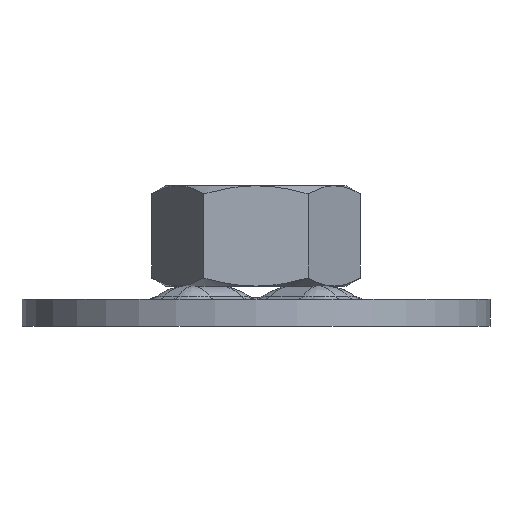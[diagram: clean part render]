
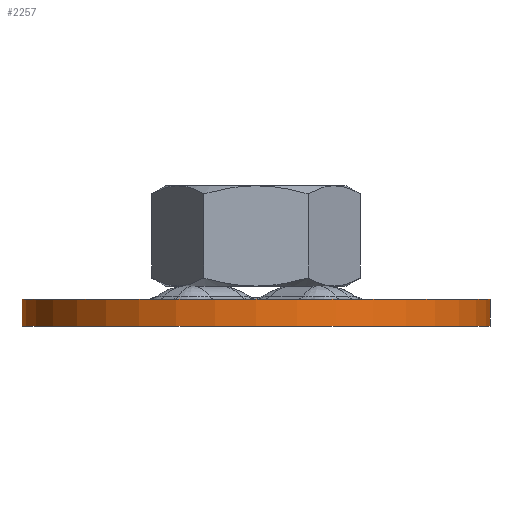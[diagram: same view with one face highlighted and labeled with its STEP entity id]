
A CAD part, front view. The second image highlights one B-rep face of the part: STEP entity #2257.
In plain terms, the highlighted cylindrical face has radius 35 mm (diameter 70 mm), a full revolution.
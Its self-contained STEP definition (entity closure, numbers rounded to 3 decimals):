
#211=CYLINDRICAL_SURFACE('',#2507,35.);
#298=LINE('',#7106,#377);
#377=VECTOR('',#3023,35.);
#537=FACE_OUTER_BOUND('',#680,.T.);
#680=EDGE_LOOP('',(#1925,#1926,#1927,#1928));
#798=CIRCLE('',#2474,35.);
#815=CIRCLE('',#2497,35.);
#986=VERTEX_POINT('',#7042);
#1000=VERTEX_POINT('',#7082);
#1293=EDGE_CURVE('',#986,#986,#798,.T.);
#1313=EDGE_CURVE('',#1000,#1000,#815,.T.);
#1325=EDGE_CURVE('',#1000,#986,#298,.T.);
#1925=ORIENTED_EDGE('',*,*,#1313,.F.);
#1926=ORIENTED_EDGE('',*,*,#1325,.T.);
#1927=ORIENTED_EDGE('',*,*,#1293,.T.);
#1928=ORIENTED_EDGE('',*,*,#1325,.F.);
#2257=ADVANCED_FACE('',(#537),#211,.T.);
#2474=AXIS2_PLACEMENT_3D('',#7043,#2949,#2950);
#2497=AXIS2_PLACEMENT_3D('',#7083,#2998,#2999);
#2507=AXIS2_PLACEMENT_3D('',#7105,#3021,#3022);
#2949=DIRECTION('center_axis',(0.,0.,1.));
#2950=DIRECTION('ref_axis',(-1.,0.,0.));
#2998=DIRECTION('center_axis',(0.,0.,1.));
#2999=DIRECTION('ref_axis',(-1.,0.,0.));
#3021=DIRECTION('center_axis',(0.,0.,1.));
#3022=DIRECTION('ref_axis',(1.,0.,0.));
#3023=DIRECTION('',(0.,0.,-1.));
#7042=CARTESIAN_POINT('',(-35.,0.,0.));
#7043=CARTESIAN_POINT('Origin',(0.,0.,0.));
#7082=CARTESIAN_POINT('',(-35.,0.,4.));
#7083=CARTESIAN_POINT('Origin',(0.,0.,4.));
#7105=CARTESIAN_POINT('Origin',(0.,0.,0.));
#7106=CARTESIAN_POINT('',(-35.,0.,0.));
